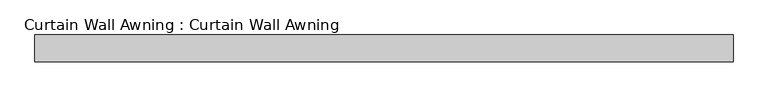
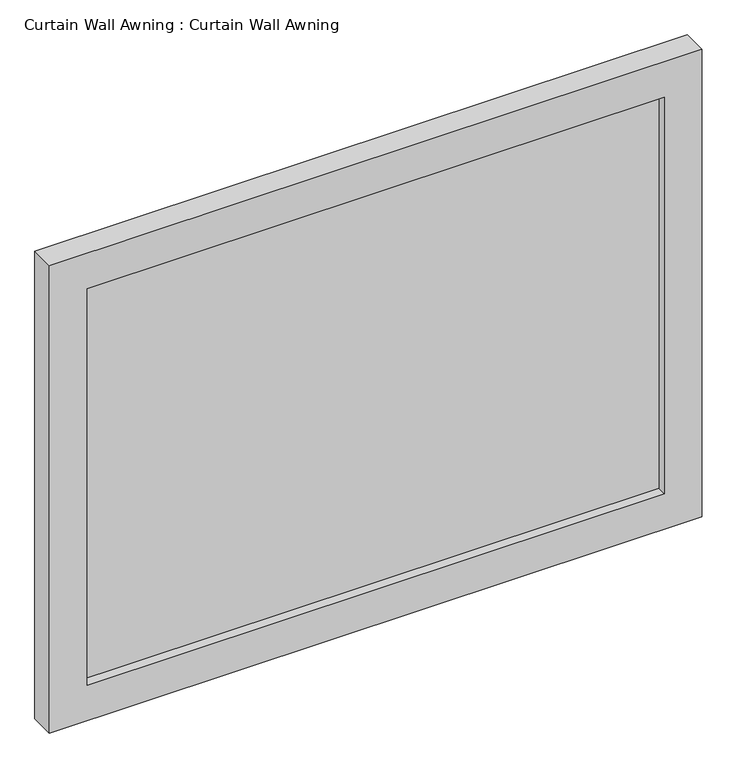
"""IFC4 building model written with IfcOpenShell, lengths in millimetres: plate geometry, Curtain Wall Awning : Curtain Wall Awning."""

from ifc_helpers import new_model, si_unit, frame, origin, place, context, project, spatial, polyline, outline, extrude, source, transform, mapped, element, save


def curtain_wall_awning_curtain_wall_awning_54adacab(model_context):
    return source(origin(), model_context, "Body", "SweptSolid", [
        extrude(outline(polyline([(584.8330663, 44.45), (-584.8330663, 44.45), (-584.8330663, 57.15), (584.8330663, 57.15), (584.8330663, 44.45)])), frame((0.0, 0.0, 76.2), z_axis=(0.0, 0.0, 1.0), x_axis=(1.0, 0.0, 0.0)), (0.0, 0.0, 1.0), 848.2193103),
        extrude(outline(polyline([(1000.6193103, -661.0330663), (0.0, -661.0330663), (0.0, 661.0330663), (1000.6193103, 661.0330663), (1000.6193103, -661.0330663)]), holes=[polyline([(924.4193103, -584.8330663), (924.4193103, 584.8330663), (76.2, 584.8330663), (76.2, -584.8330663), (924.4193103, -584.8330663)])]), frame((0.0, 25.4, 0.0), z_axis=(0.0, 1.0, 0.0), x_axis=(0.0, 0.0, 1.0)), (0.0, 0.0, 1.0), 50.8),
    ])


if __name__ == "__main__":
    model = new_model("IFC4")
    model_context = context("Model", 3, world=origin())
    ifc_project = project(units=[si_unit("LENGTHUNIT", "METRE", prefix="MILLI")], contexts=[model_context])
    site = spatial("IfcSite", under=ifc_project)
    building = spatial("IfcBuilding", under=site)
    placement = place(None, origin())
    curtain_wall_awning_curtain_wall_awning_shape = curtain_wall_awning_curtain_wall_awning_54adacab(model_context)
    element("IfcPlate", 1, ObjectType="Curtain Wall Awning : Curtain Wall Awning", at=placement, inside=building, context=model_context, shape_type="MappedRepresentation", body=[
        mapped(curtain_wall_awning_curtain_wall_awning_shape, transform((0.0, 0.0, 0.0), x_axis=(1.0, 0.0, 0.0), y_axis=(0.0, 1.0, 0.0), z_axis=(0.0, 0.0, 1.0))),
    ])
    save(model, "model.ifc")
